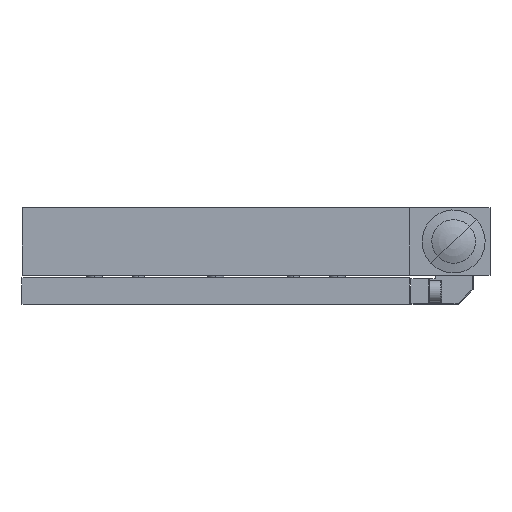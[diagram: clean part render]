
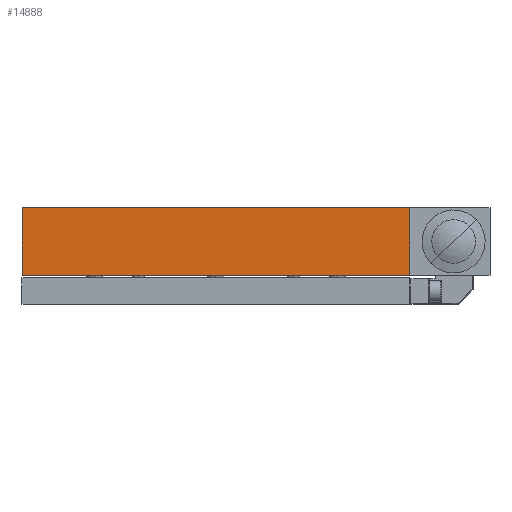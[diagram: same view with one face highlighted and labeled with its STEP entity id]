
A CAD part, left-side view. The second image highlights one B-rep face of the part: STEP entity #14888.
In plain terms, the highlighted planar face has unit normal (-1, 0, 0).
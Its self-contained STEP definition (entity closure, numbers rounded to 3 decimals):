
#827 = EDGE_CURVE ( 'NONE', #12732, #16410, #11389, .T. ) ;
#1569 = VERTEX_POINT ( 'NONE', #11424 ) ;
#2616 = AXIS2_PLACEMENT_3D ( 'NONE', #2763, #4247, #14436 ) ;
#2763 = CARTESIAN_POINT ( 'NONE',  ( -19.252, -18.575, 36.26 ) ) ;
#4247 = DIRECTION ( 'NONE',  ( 1., 0., 0. ) ) ;
#4438 = DIRECTION ( 'NONE',  ( 0., 0., -1. ) ) ;
#4543 = VECTOR ( 'NONE', #4438, 1000. ) ;
#4549 = EDGE_LOOP ( 'NONE', ( #8617, #7202, #16003, #9733 ) ) ;
#5737 = CARTESIAN_POINT ( 'NONE',  ( -19.252, -18.575, 36.26 ) ) ;
#5879 = DIRECTION ( 'NONE',  ( 0., -1., 0. ) ) ;
#5957 = EDGE_CURVE ( 'NONE', #17765, #1569, #17847, .T. ) ;
#7088 = VECTOR ( 'NONE', #5879, 1000. ) ;
#7202 = ORIENTED_EDGE ( 'NONE', *, *, #13884, .F. ) ;
#7271 = CARTESIAN_POINT ( 'NONE',  ( -19.252, -18.575, 22.26 ) ) ;
#7364 = CARTESIAN_POINT ( 'NONE',  ( -19.252, -18.575, 22.26 ) ) ;
#7686 = CARTESIAN_POINT ( 'NONE',  ( -19.252, 61.425, 36.26 ) ) ;
#7726 = CARTESIAN_POINT ( 'NONE',  ( -19.252, 61.425, 36.26 ) ) ;
#8617 = ORIENTED_EDGE ( 'NONE', *, *, #827, .T. ) ;
#8634 = FACE_OUTER_BOUND ( 'NONE', #4549, .T. ) ;
#9733 = ORIENTED_EDGE ( 'NONE', *, *, #15179, .T. ) ;
#9935 = DIRECTION ( 'NONE',  ( 0., -1., 0. ) ) ;
#11389 = LINE ( 'NONE', #7271, #7088 ) ;
#11424 = CARTESIAN_POINT ( 'NONE',  ( -19.252, -18.575, 36.26 ) ) ;
#11690 = CARTESIAN_POINT ( 'NONE',  ( -19.252, -18.575, 36.26 ) ) ;
#12259 = LINE ( 'NONE', #11690, #4543 ) ;
#12732 = VERTEX_POINT ( 'NONE', #13568 ) ;
#13171 = VECTOR ( 'NONE', #17849, 1000. ) ;
#13568 = CARTESIAN_POINT ( 'NONE',  ( -19.252, 61.425, 22.26 ) ) ;
#13884 = EDGE_CURVE ( 'NONE', #1569, #16410, #12259, .T. ) ;
#14436 = DIRECTION ( 'NONE',  ( 0., 0., -1. ) ) ;
#14888 = ADVANCED_FACE ( 'NONE', ( #8634 ), #15835, .F. ) ;
#15179 = EDGE_CURVE ( 'NONE', #17765, #12732, #17025, .T. ) ;
#15835 = PLANE ( 'NONE',  #2616 ) ;
#16003 = ORIENTED_EDGE ( 'NONE', *, *, #5957, .F. ) ;
#16410 = VERTEX_POINT ( 'NONE', #7364 ) ;
#17025 = LINE ( 'NONE', #7686, #13171 ) ;
#17393 = VECTOR ( 'NONE', #9935, 1000. ) ;
#17765 = VERTEX_POINT ( 'NONE', #7726 ) ;
#17847 = LINE ( 'NONE', #5737, #17393 ) ;
#17849 = DIRECTION ( 'NONE',  ( 0., 0., -1. ) ) ;
